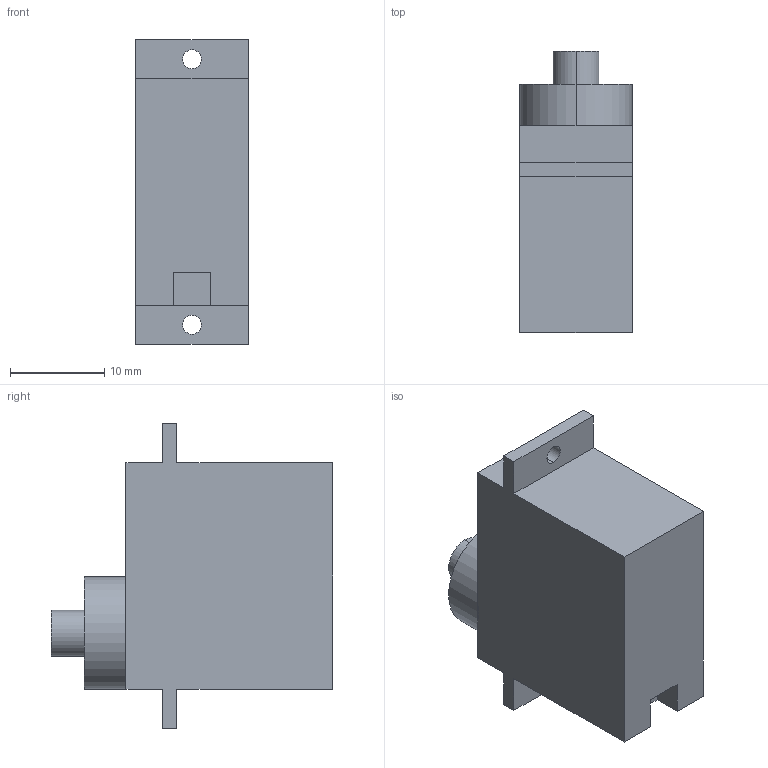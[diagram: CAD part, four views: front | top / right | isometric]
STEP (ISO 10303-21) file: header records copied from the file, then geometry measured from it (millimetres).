
FILE_DESCRIPTION (( 'STEP AP214' ), '1' );
FILE_NAME ('Servo.STEP', '2026-11-19T20:10:52', ( '' ), ( '' ), 'SwSTEP 2.0', 'SolidWorks 2026', '' );
FILE_SCHEMA (( 'AUTOMOTIVE_DESIGN' ));
Length unit declared in the file: millimetre
Products named in the file (1): Servo
Bounding box: 11.9 x 29.8 x 32.3 mm (x, y, z)
Volume: 6905.7 mm3; surface area: 2611.3 mm2
Topology: 1 solids, 1 shells, 30 faces, 77 edges, 50 vertices
Faces by surface type: plane 22, cylinder 8
Entity records: 938 total; most frequent: CARTESIAN_POINT 158, DIRECTION 157, ORIENTED_EDGE 154, EDGE_CURVE 77, LINE 59, VECTOR 59, VERTEX_POINT 50, AXIS2_PLACEMENT_3D 49
